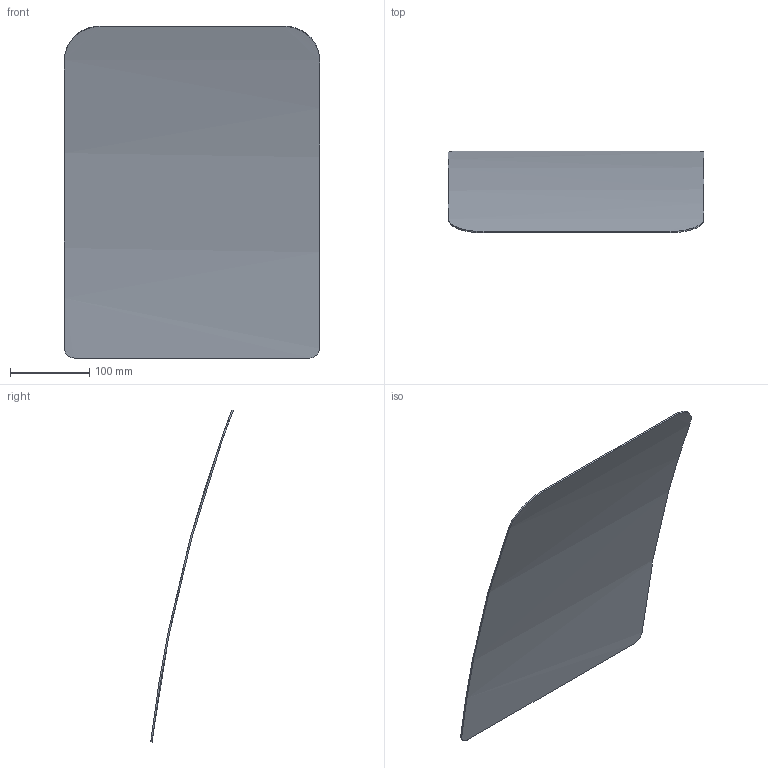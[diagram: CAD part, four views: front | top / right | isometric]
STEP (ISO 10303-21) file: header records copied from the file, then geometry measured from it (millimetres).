
FILE_DESCRIPTION(('Open CASCADE Model'),'2;1');
FILE_NAME('Open CASCADE Shape Model','2026-10-13T16:09:34',('Author'),( 'Open CASCADE'),'Open CASCADE STEP processor 7.8','Open CASCADE 7.8' ,'Unknown');
FILE_SCHEMA(('AUTOMOTIVE_DESIGN { 1 0 10303 214 1 1 1 1 }'));
Length unit declared in the file: millimetre
Products named in the file (1): Open CASCADE STEP translator 7.8 4
Bounding box: 322 x 104.12 x 419.23 mm (x, y, z)
Volume: 248838.6 mm3; surface area: 279114.5 mm2
Topology: 1 solids, 1 shells, 10 faces, 24 edges, 16 vertices
Faces by surface type: bspline 8, cylinder 2
Entity records: 972 total; most frequent: CARTESIAN_POINT 571, ORIENTED_EDGE 48, PCURVE 48, DEFINITIONAL_REPRESENTATION 48, DIRECTION 38, B_SPLINE_CURVE_WITH_KNOTS 36, LINE 32, VECTOR 32
